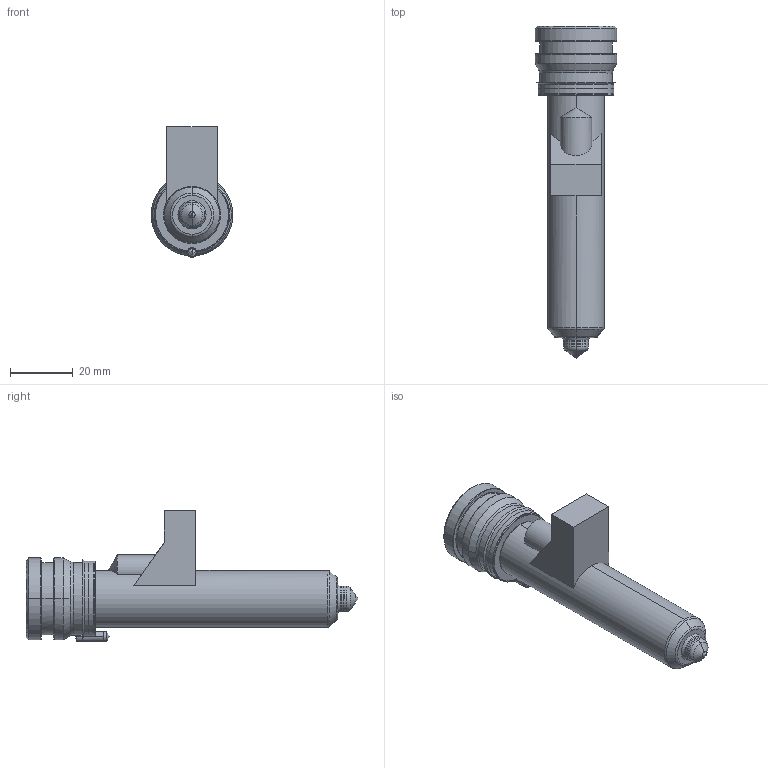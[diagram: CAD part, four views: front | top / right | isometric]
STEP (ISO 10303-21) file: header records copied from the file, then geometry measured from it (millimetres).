
FILE_DESCRIPTION((''),'2;1');
FILE_NAME('MPN-08-24-TX8-086-M','2026-02-05T13:25:58',('UPTIO'),('Thermoplay S.p.A.'),'CREO PARAMETRIC BY PTC INC, 2023494','CREO PARAMETRIC BY PTC INC, 2023494','');
FILE_SCHEMA(('CONFIG_CONTROL_DESIGN','SHAPE_APPEARANCE_LAYERS_GROUPS'));
Length unit declared in the file: millimetre
Products named in the file (1): MPN-08-24-TX8-086-M
Bounding box: 26 x 105.5 x 41.5 mm (x, y, z)
Volume: 21170 mm3; surface area: 27444 mm2
Topology: 2 solids, 3 shells, 532 faces, 1392 edges, 855 vertices
Faces by surface type: cylinder 174, plane 144, bspline 77, torus 62, cone 58, sphere 11, extrusion 6
Entity records: 28427 total; most frequent: CARTESIAN_POINT 12803, ORIENTED_EDGE 2762, DIRECTION 2491, EDGE_CURVE 1381, AXIS2_PLACEMENT_3D 974, VERTEX_POINT 855, EDGE_LOOP 562, VECTOR 543
